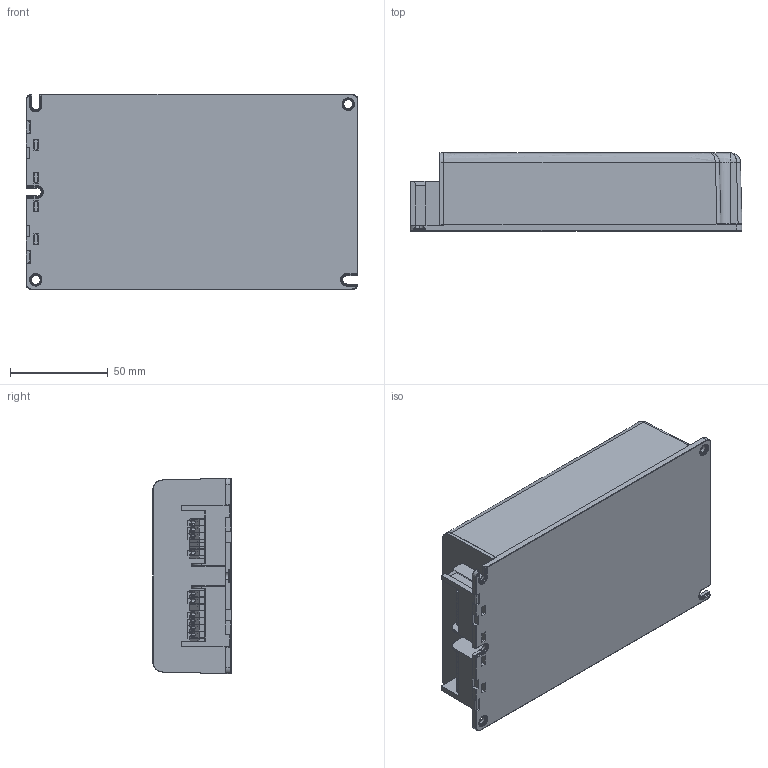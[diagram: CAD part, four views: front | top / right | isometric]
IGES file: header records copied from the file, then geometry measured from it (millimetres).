
Start section: SolidWorks IGES file using analytic representation for surfaces
Global section: file name: D:\ECTR_TEMP\OLQ-batchEngine\queue\temp\4213082swm000.igs; native system: SolidWorks 2017; preprocessor: SolidWorks 2017; author: SYSTEM; date: 200504.115000; units: millimetre
Bounding box: 170 x 40 x 100 mm (x, y, z)
Surface area: 68109.3 mm2 (no closed solid volume)
Topology: 0 solids, 0 shells, 2476 faces, 20546 edges, 20538 vertices
Faces by surface type: bspline 1776, revolution 700
